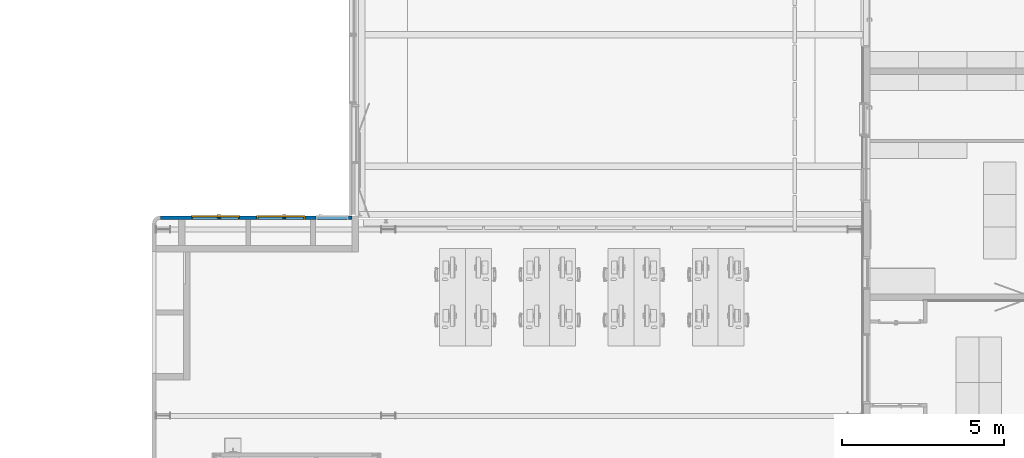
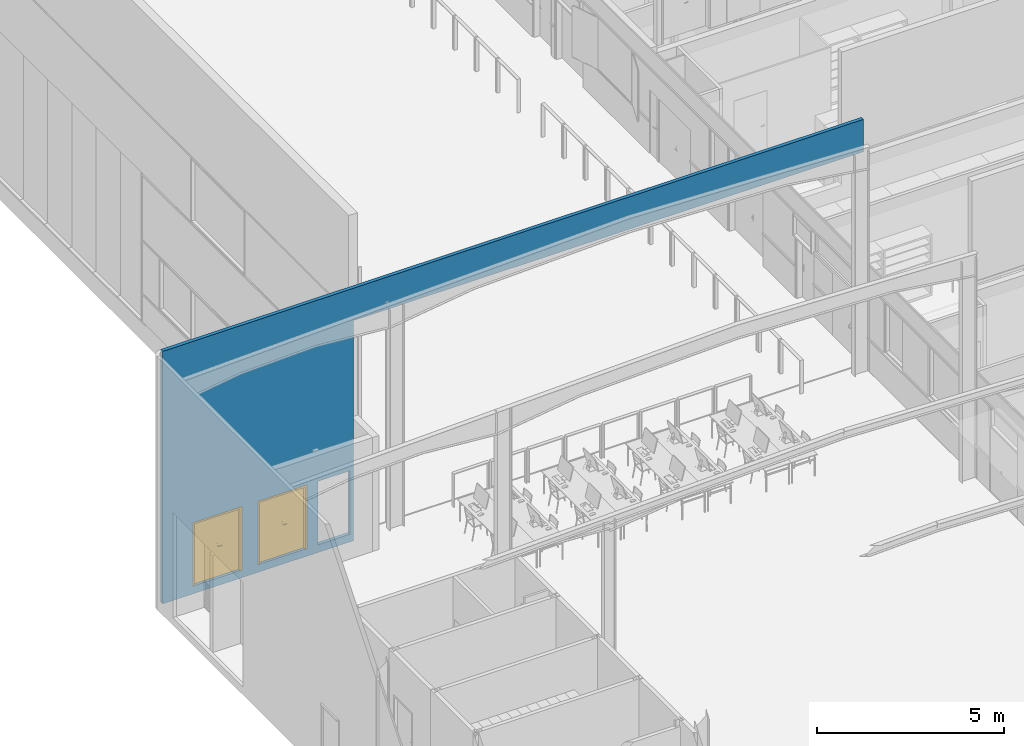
# One storey, part 72 of 137: 2 doors, 1 wall, 3 openings.
"""IFC2X3 building model written with IfcOpenShell, lengths in centimetres."""

import ifcopenshell
import ifcopenshell.guid

model = None  # the IFC model being written
_history = None  # IfcOwnerHistory: only IFC2X3 demands one
_inside = {}  # id of a spatial element -> (the spatial element, [elements in it])
_under = {}  # id of a project, library or spatial element -> (it, [spatial elements below it])
_declared = {}  # id of a project -> (the project, [libraries it declares])
_typed = {}  # id of a type object -> (the type object, [elements of that type])
_made_of = {}  # id of a material, layer set ... -> (it, [elements and type objects made of it])


def new_model(schema):
    """Start an empty IFC model of exactly this schema.

    Asked for "IFC4X3", IfcOpenShell would pick the latest addendum, in which some entities
    have other attributes; the version numbers below select the first issue.
    IFC2X3 requires an IfcOwnerHistory on every rooted entity: one is made here for all.
    """
    global model, _history
    if schema == "IFC4X3":
        model = ifcopenshell.file(schema_version=(4, 3, 0, 0))
    else:
        model = ifcopenshell.file(schema=schema)
    _inside.clear()
    _under.clear()
    _declared.clear()
    _typed.clear()
    _made_of.clear()
    _history = None
    if model.schema == "IFC2X3":
        org = make("IfcOrganization", Name="unknown")
        user = make(
            "IfcPersonAndOrganization",
            ThePerson=make("IfcPerson", FamilyName="unknown"),
            TheOrganization=org,
        )
        app = make(
            "IfcApplication",
            ApplicationDeveloper=org,
            Version="unknown",
            ApplicationFullName="unknown",
            ApplicationIdentifier="unknown",
        )
        _history = make(
            "IfcOwnerHistory",
            OwningUser=user,
            OwningApplication=app,
            ChangeAction="ADDED",
            CreationDate=0,
        )
    return model


def make(cls, **values):
    """One entity of the class cls with the attributes given. An attribute that is None is left unset."""
    return model.create_entity(
        cls, **{name: value for name, value in values.items() if value is not None}
    )


def entity(cls, *values):
    """Any entity or typed value of the class cls, its attributes in the order of the schema. None: left unset."""
    e = model.create_entity(cls)
    for i, value in enumerate(values):
        if value is not None:
            e[i] = value
    return e


def rooted(cls, **values):
    """An entity with a GlobalId (a new one), such as an element, a storey or a relation."""
    return make(cls, GlobalId=ifcopenshell.guid.new(), OwnerHistory=_history, **values)


def si_unit(unit_type, name, prefix=None):
    """IfcSIUnit, for example si_unit("LENGTHUNIT", "METRE", prefix="MILLI")."""
    return make("IfcSIUnit", UnitType=unit_type, Prefix=prefix, Name=name)


def converted_unit(unit_type, name, factor, base, dimensions=None, offset=None):
    """IfcConversionBasedUnit, such as the inch: factor (a typed value) times the base unit."""
    return make(
        "IfcConversionBasedUnit"
        if offset is None
        else "IfcConversionBasedUnitWithOffset",
        ConversionOffset=offset,
        Dimensions=None
        if dimensions is None
        else entity("IfcDimensionalExponents", *dimensions),
        UnitType=unit_type,
        Name=name,
        ConversionFactor=make(
            "IfcMeasureWithUnit", ValueComponent=factor, UnitComponent=base
        ),
    )


def derived_unit(unit_type, elements):
    """IfcDerivedUnit: a product of units, each with its exponent."""
    return make(
        "IfcDerivedUnit",
        Elements=[
            make("IfcDerivedUnitElement", Unit=unit, Exponent=power)
            for unit, power in elements
        ],
        UnitType=unit_type,
    )


def assignment(units):
    """IfcUnitAssignment: the units of a project."""
    return None if units is None else make("IfcUnitAssignment", Units=units)


def point(xyz):
    """IfcCartesianPoint."""
    return None if xyz is None else make("IfcCartesianPoint", Coordinates=xyz)


def direction(xyz):
    """IfcDirection."""
    return None if xyz is None else make("IfcDirection", DirectionRatios=xyz)


def frame(location, z_axis=None, x_axis=None):
    """IfcAxis2Placement3D, a coordinate frame: its origin and axes. An axis left out is left unset."""
    return make(
        "IfcAxis2Placement3D",
        Location=point(location),
        Axis=direction(z_axis),
        RefDirection=direction(x_axis),
    )


def frame_2d(location, x_axis=None):
    """IfcAxis2Placement2D, a coordinate frame in the plane: its origin and x axis."""
    return make(
        "IfcAxis2Placement2D", Location=point(location), RefDirection=direction(x_axis)
    )


def origin():
    """The frame at (0, 0, 0) with its axes left unset."""
    return frame((0.0, 0.0, 0.0))


def place(relative_to, where):
    """IfcLocalPlacement: puts the frame where relative to a parent placement (None: the world)."""
    return make(
        "IfcLocalPlacement", PlacementRelTo=relative_to, RelativePlacement=where
    )


def context(
    kind, dimensions, precision=None, world=None, true_north=None, identifier=None
):
    """IfcGeometricRepresentationContext, for example the 3D "Model" context."""
    return make(
        "IfcGeometricRepresentationContext",
        ContextIdentifier=identifier,
        ContextType=kind,
        CoordinateSpaceDimension=dimensions,
        Precision=precision,
        WorldCoordinateSystem=world,
        TrueNorth=true_north,
    )


def subcontext(parent, identifier, kind, view, scale=None):
    """IfcGeometricRepresentationSubContext, for example "Body" below "Model"."""
    return make(
        "IfcGeometricRepresentationSubContext",
        ContextIdentifier=identifier,
        ContextType=kind,
        ParentContext=parent,
        TargetScale=scale,
        TargetView=view,
    )


def project(units=None, contexts=None):
    """IfcProject with its units and contexts."""
    return rooted(
        "IfcProject",
        Name="project",
        RepresentationContexts=contexts,
        UnitsInContext=assignment(units),
    )


def spatial(cls, under=None, at=None, **own):
    """A site, building, storey or space (cls), placed at a placement, below another one or the project."""
    s = rooted(cls, ObjectPlacement=at, **own)
    if under is not None:
        _under.setdefault(under.id(), (under, []))[1].append(s)
    return s


def profile(cls, at=None, kind="AREA", **sizes):
    """A parametric profile (cls). Its sizes go by their IFC names, for example OverallWidth=200.0."""
    return make(cls, ProfileType=kind, Position=at, **sizes)


def rectangle(**sizes):
    """IfcRectangleProfileDef."""
    return profile("IfcRectangleProfileDef", **sizes)


def extrude(swept, where, along, depth):
    """IfcExtrudedAreaSolid: the profile swept, set in the frame where, extruded along a direction by depth."""
    return make(
        "IfcExtrudedAreaSolid",
        SweptArea=swept,
        Position=where,
        ExtrudedDirection=direction(along),
        Depth=depth,
    )


def faces_of(points, faces, orient=None, outer=None):
    """IfcFace entities. A face is a list of loops; a loop is a list of indices into points, from 0.

    orient and outer hold one flag for each loop. By default every Orientation is true, the
    first loop of a face is its IfcFaceOuterBound and the others are IfcFaceBound.
    """
    made = []
    for i, loops in enumerate(faces):
        bounds = []
        for j, loop in enumerate(loops):
            is_outer = j == 0 if outer is None else outer[i][j]
            bounds.append(
                make(
                    "IfcFaceOuterBound" if is_outer else "IfcFaceBound",
                    Bound=make("IfcPolyLoop", Polygon=[points[k] for k in loop]),
                    Orientation=True if orient is None else orient[i][j],
                )
            )
        made.append(make("IfcFace", Bounds=bounds))
    return made


def faceted_brep(points, faces, orient=None, outer=None, voids=None):
    """IfcFacetedBrep: a solid bounded by flat faces; with voids (closed shells), ...WithVoids."""
    shared = [point(p) for p in points]
    hull = make("IfcClosedShell", CfsFaces=faces_of(shared, faces, orient, outer))
    if voids is None:
        return make("IfcFacetedBrep", Outer=hull)
    return make(
        "IfcFacetedBrepWithVoids",
        Outer=hull,
        Voids=[
            make(cls, CfsFaces=faces_of(shared, fs, o, b)) for cls, fs, o, b in voids
        ],
    )


def shape(context_of_items, identifier, shape_type, items):
    """IfcShapeRepresentation: the items that make up one representation, for example the "Body"."""
    return make(
        "IfcShapeRepresentation",
        ContextOfItems=context_of_items,
        RepresentationIdentifier=identifier,
        RepresentationType=shape_type,
        Items=items,
    )


def source(mapping_origin, context_of_items, identifier, shape_type, items):
    """IfcRepresentationMap: a shape defined once, which mapped items show again and again."""
    return make(
        "IfcRepresentationMap",
        MappingOrigin=mapping_origin,
        MappedRepresentation=shape(context_of_items, identifier, shape_type, items),
    )


def transform(
    local_origin,
    x_axis=None,
    y_axis=None,
    z_axis=None,
    scale=None,
    scale2=None,
    scale3=None,
    uniform=True,
):
    """IfcCartesianTransformationOperator3D, or its non-uniform kind. x_axis, y_axis, z_axis: its Axis1, 2, 3."""
    if uniform:
        return make(
            "IfcCartesianTransformationOperator3D",
            Axis1=direction(x_axis),
            Axis2=direction(y_axis),
            LocalOrigin=point(local_origin),
            Scale=scale,
            Axis3=direction(z_axis),
        )
    return make(
        "IfcCartesianTransformationOperator3DnonUniform",
        Axis1=direction(x_axis),
        Axis2=direction(y_axis),
        LocalOrigin=point(local_origin),
        Scale=scale,
        Axis3=direction(z_axis),
        Scale2=scale2,
        Scale3=scale3,
    )


def mapped(mapping_source, mapping_target):
    """IfcMappedItem: shows the shape of a source again, moved by a transform."""
    return make(
        "IfcMappedItem", MappingSource=mapping_source, MappingTarget=mapping_target
    )


def material(Name=None, Category=None):
    """IfcMaterial."""
    return make("IfcMaterial", Name=Name, Category=Category)


def material_list(materials):
    """IfcMaterialList."""
    return make("IfcMaterialList", Materials=materials)


def made_of(thing, what):
    """Note that an element or type object is made of a material, layer set ...; save() writes the relation."""
    if what is not None:
        _made_of.setdefault(what.id(), (what, []))[1].append(thing)
    return thing


def type_object(cls, material=None, **own):
    """A type object (cls), such as IfcWallType, which elements share."""
    return made_of(rooted(cls, **own), material)


def type_shapes(of_type, sources):
    """Give a type object the sources (RepresentationMaps) that its elements show as mapped items."""
    of_type.RepresentationMaps = sources


def element(
    cls,
    number,
    at=None,
    inside=None,
    cuts=None,
    type_object=None,
    material=None,
    context=None,
    identifier="Body",
    shape_type=None,
    held_by="IfcProductDefinitionShape",
    body=None,
    shapes=None,
    **own,
):
    """One element of the class cls, such as IfcWall. Its Tag is "e" and its number.

    at: its placement. inside: the storey or other place that contains it. cuts: it is an
    opening in that element (IfcRelVoidsElement). A single representation is given by context,
    identifier, shape_type and body (its items); several are given by shapes. held_by: the class
    of the entity that holds the representations. save() writes the other relations.
    """
    e = rooted(cls, Tag="e%d" % number, ObjectPlacement=at, **own)
    if body is not None:
        shapes = [shape(context, identifier, shape_type, body)]
    if shapes is not None:
        e.Representation = make(held_by, Representations=shapes)
    if inside is not None:
        _inside.setdefault(inside.id(), (inside, []))[1].append(e)
    if cuts is not None:
        rooted(
            "IfcRelVoidsElement", RelatingBuildingElement=cuts, RelatedOpeningElement=e
        )
    if type_object is not None:
        _typed.setdefault(type_object.id(), (type_object, []))[1].append(e)
    return made_of(e, material)


def fill(opening, filler):
    """IfcRelFillsElement: the door or window that sits in an opening."""
    return rooted(
        "IfcRelFillsElement",
        RelatingOpeningElement=opening,
        RelatedBuildingElement=filler,
    )


def aggregate(whole, parts):
    """IfcRelAggregates: a whole, such as a stair, and the parts it consists of."""
    return rooted("IfcRelAggregates", RelatingObject=whole, RelatedObjects=parts)


def save(model, path):
    """Write the relations noted so far, then the file.

    IfcRelAggregates (storeys below a building ...), IfcRelContainedInSpatialStructure (elements
    in a storey), IfcRelDefinesByType, IfcRelAssociatesMaterial and IfcRelDeclares: one each for
    every whole, place, type object, material and project.
    """
    for whole, parts in _under.values():
        aggregate(whole, parts)
    for where, things in _inside.values():
        rooted(
            "IfcRelContainedInSpatialStructure",
            RelatedElements=things,
            RelatingStructure=where,
        )
    for kind, things in _typed.values():
        rooted("IfcRelDefinesByType", RelatedObjects=things, RelatingType=kind)
    for what, things in _made_of.values():
        rooted("IfcRelAssociatesMaterial", RelatedObjects=things, RelatingMaterial=what)
    for by, libraries in _declared.values():
        rooted("IfcRelDeclares", RelatingContext=by, RelatedDefinitions=libraries)
    model.write(path)


model = new_model("IFC2X3")

# Units and contexts
model_context = context("Model", 3, precision=0.001, world=origin(), true_north=direction((6.12303176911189e-17, 1.0)))
body_context = subcontext(model_context, "Body", "Model", "MODEL_VIEW")
ifc_project = project(units=[si_unit("LENGTHUNIT", "METRE", prefix="CENTI"), si_unit("AREAUNIT", "SQUARE_METRE"), si_unit("VOLUMEUNIT", "CUBIC_METRE"), converted_unit("PLANEANGLEUNIT", "DEGREE", entity("IfcRatioMeasure", 0.0174532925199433), si_unit("PLANEANGLEUNIT", "RADIAN"), dimensions=[0, 0, 0, 0, 0, 0, 0]), si_unit("MASSUNIT", "GRAM", prefix="KILO"), si_unit("TIMEUNIT", "SECOND"), si_unit("FREQUENCYUNIT", "HERTZ"), si_unit("THERMODYNAMICTEMPERATUREUNIT", "DEGREE_CELSIUS"), derived_unit("THERMALTRANSMITTANCEUNIT", [(si_unit("MASSUNIT", "GRAM", prefix="KILO"), 1), (si_unit("THERMODYNAMICTEMPERATUREUNIT", "KELVIN"), -1), (si_unit("TIMEUNIT", "SECOND"), -3)]), derived_unit("VOLUMETRICFLOWRATEUNIT", [(si_unit("LENGTHUNIT", "METRE"), 3), (si_unit("TIMEUNIT", "SECOND"), -1)]), si_unit("ELECTRICCURRENTUNIT", "AMPERE"), si_unit("ELECTRICVOLTAGEUNIT", "VOLT"), si_unit("POWERUNIT", "WATT"), si_unit("FORCEUNIT", "NEWTON", prefix="KILO"), si_unit("ILLUMINANCEUNIT", "LUX"), si_unit("LUMINOUSFLUXUNIT", "LUMEN"), si_unit("LUMINOUSINTENSITYUNIT", "CANDELA"), derived_unit("USERDEFINED", [(si_unit("MASSUNIT", "GRAM", prefix="KILO"), -1), (si_unit("LENGTHUNIT", "METRE"), -2), (si_unit("TIMEUNIT", "SECOND"), 3), (si_unit("LUMINOUSFLUXUNIT", "LUMEN"), 1)]), derived_unit("LINEARVELOCITYUNIT", [(si_unit("LENGTHUNIT", "METRE"), 1), (si_unit("TIMEUNIT", "SECOND"), -1)]), si_unit("PRESSUREUNIT", "PASCAL"), derived_unit("USERDEFINED", [(si_unit("LENGTHUNIT", "METRE"), -2), (si_unit("MASSUNIT", "GRAM", prefix="KILO"), 1), (si_unit("TIMEUNIT", "SECOND"), -2)])], contexts=[model_context])

# Site, building, storey
site_placement = place(None, frame((8.62739174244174, -249.285249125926, 0.0)))
site = spatial("IfcSite", under=ifc_project, at=site_placement, Name="Default", CompositionType="ELEMENT")
building_placement = place(site_placement, origin())
building = spatial("IfcBuilding", under=site, at=building_placement, CompositionType="ELEMENT")
storey_placement = place(building_placement, origin())
storey = spatial("IfcBuildingStorey", under=building, at=storey_placement, Name="RDC", CompositionType="ELEMENT", Elevation=-8.82465566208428e-11)

# Wall, openings, doors
ifc_material_1 = material(Name="Tôle/Doublage")
ifc_material_2 = material(Name="Laine minérale")
ifc_material_list_1 = material_list([ifc_material_1, ifc_material_2, ifc_material_1])
wall_type = type_object("IfcWallType", Name="Mur de base:MET 4 + ISO 6 + MET 1", PredefinedType="NOTDEFINED")
wall_placement = place(storey_placement, frame((865.72426816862, 3548.48060251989, -25.0)))
wall = element("IfcWall", 1, at=wall_placement, inside=storey, type_object=wall_type, material=ifc_material_list_1, Name="Mur de base:MET 4 + ISO 6 + MET 1", ObjectType="Mur de base:MET 4 + ISO 6 + MET 1", context=body_context, shape_type="Brep", body=[
    faceted_brep([(0.0, -5.50000000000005, 0.0), (591.180559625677, -5.50000000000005, 0.0), (591.180559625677, -5.50000000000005, 720.0), (2168.18055964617, -5.50000000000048, 720.0), (2168.18055964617, -5.50000000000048, 826.0), (0.0, -5.50000000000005, 826.0), (243.680559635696, -5.50000000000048, 25.0), (94.6805596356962, -5.50000000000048, 25.0), (94.6805596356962, -5.50000000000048, 232.0), (243.680559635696, -5.50000000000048, 232.0), (445.180559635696, -5.50000000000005, 25.0), (296.180559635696, -5.50000000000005, 25.0), (296.180559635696, -5.50000000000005, 232.0), (445.180559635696, -5.50000000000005, 232.0), (580.180559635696, -5.50000000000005, 25.0), (480.180559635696, -5.50000000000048, 25.0), (480.180559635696, -5.50000000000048, 232.499999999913), (580.180559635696, -5.50000000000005, 232.499999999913), (0.180171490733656, 5.50000000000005, 0.0), (0.180171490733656, 5.50000000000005, 826.0), (2168.1805596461, 5.49999999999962, 826.0), (2168.1805596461, 5.49999999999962, 720.0), (591.180559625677, 5.50000000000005, 720.0), (591.180559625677, 5.50000000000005, 0.0), (243.680559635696, 5.49999999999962, 25.0), (243.680559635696, 5.49999999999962, 232.0), (94.6805596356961, 5.49999999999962, 232.0), (94.6805596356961, 5.49999999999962, 25.0), (445.180559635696, 5.50000000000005, 25.0), (445.180559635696, 5.50000000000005, 232.0), (296.180559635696, 5.50000000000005, 232.0), (296.180559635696, 5.50000000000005, 25.0), (580.180559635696, 5.50000000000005, 25.0), (580.180559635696, 5.50000000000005, 232.499999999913), (480.180559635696, 5.49999999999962, 232.499999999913), (480.180559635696, 5.49999999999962, 25.0)], [[[0, 1, 2, 3, 4, 5], [6, 7, 8, 9], [10, 11, 12, 13], [14, 15, 16, 17]], [[18, 19, 20, 21, 22, 23], [24, 25, 26, 27], [28, 29, 30, 31], [32, 33, 34, 35]], [[1, 0, 18, 23]], [[2, 1, 23, 22]], [[5, 4, 20, 19]], [[3, 2, 22, 21]], [[4, 3, 21, 20]], [[0, 5, 19, 18]], [[25, 24, 6, 9]], [[26, 25, 9, 8]], [[27, 26, 8, 7]], [[24, 27, 7, 6]], [[29, 28, 10, 13]], [[30, 29, 13, 12]], [[31, 30, 12, 11]], [[28, 31, 11, 10]], [[33, 32, 14, 17]], [[34, 33, 17, 16]], [[35, 34, 16, 15]], [[32, 35, 15, 14]]]),
])
opening_1_placement = place(wall_placement, frame((94.6805596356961, -5.50000000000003, 25.0)))
opening_1 = element("IfcOpeningElement", 2, at=opening_1_placement, cuts=wall, Name="Double(R)_bois_Existant_mu:143 x 204 cm:1", ObjectType="Opening", context=body_context, shape_type="SweptSolid", body=[
    extrude(rectangle(XDim=206.999999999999, YDim=149.0, at=frame_2d((103.499999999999, 74.4999999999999), x_axis=(1.0, 0.0))), frame((0.0, 0.0, 0.0), z_axis=(0.0, 1.0, 0.0), x_axis=(0.0, 0.0, 1.0)), (0.0, 0.0, 1.0), 11.0),
])
opening_2_placement = place(wall_placement, frame((296.180559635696, -5.50000000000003, 25.0)))
opening_2 = element("IfcOpeningElement", 3, at=opening_2_placement, cuts=wall, Name="Double(R)_bois_Existant_mu:143 x 204 cm:1", ObjectType="Opening", context=body_context, shape_type="SweptSolid", body=[
    extrude(rectangle(XDim=206.999999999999, YDim=149.0, at=frame_2d((103.499999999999, 74.4999999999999), x_axis=(1.0, 0.0))), frame((0.0, 0.0, 0.0), z_axis=(0.0, 1.0, 0.0), x_axis=(0.0, 0.0, 1.0)), (0.0, 0.0, 1.0), 11.0),
])
opening_3_placement = place(wall_placement, frame((480.180559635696, -5.49999999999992, 25.0)))
element("IfcOpeningElement", 4, at=opening_3_placement, cuts=wall, Name="Simple(R)_bois_mu:93 x 204 cm:1", ObjectType="Opening", context=body_context, shape_type="SweptSolid", body=[
    extrude(rectangle(XDim=207.499999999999, YDim=99.9999999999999, at=frame_2d((103.749999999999, 50.0), x_axis=(1.0, 0.0))), frame((0.0, 0.0, 0.0), z_axis=(0.0, 1.0, 0.0), x_axis=(0.0, 0.0, 1.0)), (0.0, 0.0, 1.0), 11.0),
])
ifc_material_3 = material(Name="Porte - Poignée")
ifc_material_4 = material(Name="Porte - Cadre")
ifc_material_5 = material(Name="Porte - Panneau")
ifc_material_list_2 = material_list([ifc_material_3, ifc_material_4, ifc_material_5])
ifc_material_list_3 = material_list([ifc_material_3, ifc_material_4, ifc_material_5])
door_style = type_object("IfcDoorStyle", Name="143 x 204 cm", ConstructionType="NOTDEFINED", OperationType="DOUBLE_DOOR_SINGLE_SWING", ParameterTakesPrecedence=False, Sizeable=False, material=ifc_material_list_3)
shared_shape = source(origin(), body_context, "Body", "Brep", [
    faceted_brep([(69.2025298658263, 3.69999999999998, 100.778044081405), (68.7974701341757, 3.69999999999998, 100.778044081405), (68.3999999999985, 3.69999999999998, 100.699999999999), (68.4000000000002, 3.69999999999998, 99.3000000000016), (68.7974701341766, 3.69999999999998, 99.2219559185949), (69.2025298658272, 3.69999999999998, 99.2219559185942), (69.6000000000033, 3.69999999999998, 99.2999999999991), (69.600000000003, 3.69999999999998, 100.699999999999), (68.3999999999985, 5.94852045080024, 100.699999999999), (68.3999999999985, 5.94852045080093, 99.3000000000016), (68.7974701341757, 6.1131579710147, 100.778044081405), (69.2025298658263, 6.2809392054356, 100.778044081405), (67.583890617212, 7.89957845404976, 100.778044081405), (67.4161093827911, 7.49451872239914, 100.778044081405), (59.0793122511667, 7.49451872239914, 100.778044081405), (58.9115310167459, 7.89957845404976, 100.778044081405), (58.145104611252, 7.13315204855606, 100.778044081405), (58.4315250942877, 6.84673156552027, 100.778044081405), (69.6000000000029, 6.44557672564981, 100.699999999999), (69.6000000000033, 6.44557672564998, 99.2999999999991), (69.2025298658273, 6.28093920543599, 99.2219559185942), (68.7974701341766, 6.11315797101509, 99.2219559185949), (67.4161093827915, 7.49451872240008, 99.2219559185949), (67.5838906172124, 7.8995784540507, 99.2219559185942), (58.9115310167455, 7.8995784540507, 99.2219559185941), (59.0793122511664, 7.49451872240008, 99.2219559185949), (58.4315250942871, 6.84673156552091, 99.2219559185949), (58.1451046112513, 7.13315204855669, 99.2219559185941), (67.2514718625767, 7.09704858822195, 100.699999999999), (67.2514718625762, 7.09704858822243, 99.3000000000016), (67.7485281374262, 8.29704858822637, 100.699999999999), (67.7485281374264, 8.29704858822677, 99.2999999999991), (63.2477108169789, 7.09704858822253, 100.699999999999), (59.2439497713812, 7.09704858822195, 100.699999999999), (59.2439497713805, 7.09704858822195, 99.3000000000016), (63.2477108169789, 7.09704858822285, 99.3000000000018), (63.2477108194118, 7.71249275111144, 100.787811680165), (62.7399422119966, 8.29704858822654, 100.699999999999), (58.7468934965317, 8.29704858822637, 100.699999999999), (63.7554791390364, 8.29704858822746, 99.2999999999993), (58.7468934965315, 8.29704858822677, 99.2999999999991), (63.247710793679, 7.71249274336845, 99.2121883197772), (57.8640507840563, 7.41420587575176, 100.699999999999), (57.8640507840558, 7.41420587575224, 99.2999999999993), (58.7125789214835, 6.5656777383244, 99.3000000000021), (58.7125789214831, 6.56567773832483, 100.699999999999)], [[[0, 1, 2, 3, 4, 5, 6, 7]], [[8, 9, 3, 2]], [[1, 10, 8, 2]], [[1, 0, 11, 12, 13, 10]], [[14, 15, 16, 17]], [[7, 18, 11, 0]], [[18, 7, 6, 19]], [[6, 5, 20, 19]], [[5, 4, 21, 22, 23, 20]], [[24, 25, 26, 27]], [[4, 3, 9, 21]], [[28, 29, 9, 8]], [[8, 10, 13, 28]], [[18, 30, 12, 11]], [[31, 30, 18, 19]], [[19, 20, 23, 31]], [[21, 9, 29, 22]], [[29, 28, 32, 33, 34, 35]], [[36, 32, 13]], [[37, 38, 15]], [[37, 12, 30]], [[36, 12, 37]], [[14, 32, 36]], [[36, 15, 14]], [[28, 13, 32]], [[32, 14, 33]], [[12, 36, 13]], [[15, 36, 37]], [[30, 31, 39, 40, 38, 37]], [[23, 41, 39]], [[24, 39, 41]], [[39, 31, 23]], [[39, 24, 40]], [[22, 35, 41]], [[41, 23, 22]], [[41, 35, 25]], [[35, 22, 29]], [[34, 25, 35]], [[24, 41, 25]], [[17, 16, 42, 43, 27, 26, 44, 45]], [[45, 44, 34, 33]], [[33, 14, 17, 45]], [[15, 38, 42, 16]], [[43, 42, 38, 40]], [[24, 27, 43, 40]], [[34, 44, 26, 25]]]),
    faceted_brep([(68.7974701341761, -1.30000000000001, 100.778044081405), (69.2025298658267, -1.30000000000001, 100.778044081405), (69.6000000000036, -1.30000000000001, 100.699999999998), (69.6000000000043, -1.30000000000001, 99.2999999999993), (69.2025298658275, -1.30000000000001, 99.2219559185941), (68.7974701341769, -1.30000000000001, 99.2219559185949), (68.3999999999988, -1.30000000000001, 99.3000000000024), (68.3999999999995, -1.30000000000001, 100.699999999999), (69.2025298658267, -3.90045754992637, 100.778044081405), (69.6000000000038, -4.06509507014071, 100.699999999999), (68.7974701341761, -3.73267631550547, 100.778044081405), (67.4298602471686, -5.10028620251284, 100.778044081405), (67.5976414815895, -5.50534593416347, 100.778044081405), (58.9142453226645, -5.50534593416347, 100.778044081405), (59.0820265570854, -5.10028620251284, 100.778044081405), (58.4342394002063, -4.4524990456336, 100.778044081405), (58.1478189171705, -4.73891952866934, 100.778044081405), (68.3999999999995, -3.56803879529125, 100.699999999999), (68.3999999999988, -3.56803879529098, 99.3000000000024), (68.7974701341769, -3.7326763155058, 99.2219559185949), (69.2025298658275, -3.9004575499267, 99.2219559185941), (67.5976414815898, -5.50534593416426, 99.2219559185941), (67.4298602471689, -5.10028620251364, 99.2219559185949), (59.0820265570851, -5.10028620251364, 99.2219559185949), (58.9142453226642, -5.50534593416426, 99.2219559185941), (58.1478189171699, -4.73891952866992, 99.2219559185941), (58.4342394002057, -4.45249904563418, 99.2219559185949), (69.6000000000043, -4.06509507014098, 99.2999999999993), (67.7622790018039, -5.90281606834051, 100.699999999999), (67.2652227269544, -4.70281606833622, 100.699999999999), (67.2652227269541, -4.70281606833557, 99.3000000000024), (67.7622790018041, -5.90281606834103, 99.2999999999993), (63.255943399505, -5.31828027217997, 100.787811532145), (63.7692302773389, -5.90281606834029, 100.699999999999), (58.7496078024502, -5.90281606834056, 100.699999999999), (63.2559434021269, -4.70281606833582, 100.699999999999), (59.2466640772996, -4.70281606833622, 100.699999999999), (63.2559436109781, -4.70281606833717, 99.3000000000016), (59.2466640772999, -4.70281606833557, 99.3000000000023), (63.2559434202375, -5.31828027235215, 99.2121884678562), (62.7426572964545, -5.90281606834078, 99.2999999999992), (58.7496078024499, -5.90281606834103, 99.2999999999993), (58.715293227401, -4.17144521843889, 99.3000000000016), (57.8667650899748, -5.01997335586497, 99.2999999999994), (57.8667650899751, -5.01997335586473, 100.699999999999), (58.7152932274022, -4.17144521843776, 100.699999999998)], [[[0, 1, 2, 3, 4, 5, 6, 7]], [[2, 1, 8, 9]], [[1, 0, 10, 11, 12, 8]], [[13, 14, 15, 16]], [[0, 7, 17, 10]], [[18, 17, 7, 6]], [[5, 19, 18, 6]], [[5, 4, 20, 21, 22, 19]], [[23, 24, 25, 26]], [[3, 27, 20, 4]], [[9, 27, 3, 2]], [[9, 8, 12, 28]], [[10, 17, 29, 11]], [[30, 29, 17, 18]], [[18, 19, 22, 30]], [[20, 27, 31, 21]], [[28, 31, 27, 9]], [[12, 32, 33]], [[13, 33, 32]], [[33, 28, 12]], [[33, 13, 34]], [[11, 35, 32]], [[32, 12, 11]], [[32, 35, 14]], [[35, 11, 29]], [[36, 14, 35]], [[13, 32, 14]], [[29, 30, 37, 38, 36, 35]], [[39, 37, 22]], [[40, 41, 24]], [[40, 21, 31]], [[39, 21, 40]], [[23, 37, 39]], [[39, 24, 23]], [[30, 22, 37]], [[37, 23, 38]], [[21, 39, 22]], [[24, 39, 40]], [[31, 28, 33, 34, 41, 40]], [[42, 26, 25, 43, 44, 16, 15, 45]], [[13, 16, 44, 34]], [[36, 45, 15, 14]], [[42, 45, 36, 38]], [[38, 23, 26, 42]], [[24, 41, 43, 25]], [[44, 43, 41, 34]]]),
    faceted_brep([(69.0, 3.19999999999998, 86.4641016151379), (70.0352761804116, 3.19999999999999, 86.6003983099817), (71.0, 3.19999999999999, 87.0), (71.0, 3.19999999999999, 108.0), (70.0352761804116, 3.19999999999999, 108.399601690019), (69.0, 3.19999999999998, 108.535898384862), (67.9647238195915, 3.19999999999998, 108.399601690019), (67.0, 3.19999999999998, 108.0), (67.0, 3.19999999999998, 87.0), (67.9647238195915, 3.19999999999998, 86.6003983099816), (69.0, 3.69999999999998, 108.535898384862), (70.0352761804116, 3.69999999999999, 108.399601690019), (71.0, 3.69999999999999, 108.0), (71.0, 3.69999999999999, 87.0), (70.0352761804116, 3.69999999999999, 86.6003983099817), (69.0, 3.69999999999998, 86.4641016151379), (67.9647238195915, 3.69999999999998, 86.6003983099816), (67.0, 3.69999999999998, 87.0), (67.0, 3.69999999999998, 108.0), (67.9647238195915, 3.69999999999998, 108.399601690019)], [[[0, 1, 2, 3, 4, 5, 6, 7, 8, 9]], [[10, 11, 12, 13, 14, 15, 16, 17, 18, 19]], [[6, 19, 18, 7]], [[5, 10, 19, 6]], [[4, 11, 10, 5]], [[4, 3, 12, 11]], [[12, 3, 2, 13]], [[1, 14, 13, 2]], [[0, 15, 14, 1]], [[9, 16, 15, 0]], [[9, 8, 17, 16]], [[17, 8, 7, 18]]]),
    faceted_brep([(69.0, -1.30000000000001, 86.4641016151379), (70.0352761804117, -1.30000000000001, 86.6003983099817), (71.0, -1.30000000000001, 87.0), (71.0, -1.30000000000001, 108.0), (70.0352761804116, -1.30000000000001, 108.399601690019), (69.0, -1.30000000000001, 108.535898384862), (67.9647238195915, -1.30000000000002, 108.399601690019), (67.0, -1.30000000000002, 108.0), (67.0, -1.30000000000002, 87.0), (67.9647238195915, -1.30000000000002, 86.6003983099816), (71.0, -0.800000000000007, 108.0), (71.0, -0.800000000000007, 87.0), (70.0352761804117, -0.80000000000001, 86.6003983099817), (69.0, -0.800000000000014, 86.4641016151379), (67.9647238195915, -0.800000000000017, 86.6003983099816), (67.0, -0.800000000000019, 87.0), (67.0, -0.800000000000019, 108.0), (67.9647238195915, -0.800000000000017, 108.399601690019), (69.0, -0.800000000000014, 108.535898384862), (70.0352761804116, -0.80000000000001, 108.399601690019)], [[[0, 1, 2, 3, 4, 5, 6, 7, 8, 9]], [[10, 11, 12, 13, 14, 15, 16, 17, 18, 19]], [[1, 12, 11, 2]], [[0, 13, 12, 1]], [[9, 14, 13, 0]], [[9, 8, 15, 14]], [[15, 8, 7, 16]], [[6, 17, 16, 7]], [[5, 18, 17, 6]], [[4, 19, 18, 5]], [[4, 3, 10, 19]], [[10, 3, 2, 11]]]),
    faceted_brep([(149.0, 0.0, 0.0), (150.0, 0.0, 0.0), (150.0, -0.799999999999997, 0.0), (146.0, -0.799999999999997, 0.0), (146.0, 3.2, 0.0), (145.0, 3.2, 0.0), (145.0, 11.8000000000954, 0.0), (150.0, 11.8000000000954, 0.0), (150.0, 11.0, 0.0), (149.0, 11.0, 0.0), (149.0, 11.0, 207.0), (149.0, 0.0, 207.0), (150.0, 11.0, 208.0), (-1.0, 11.0, 208.0), (-1.0, 11.0, 0.0), (0.0, 11.0, 0.0), (0.0, 11.0, 207.0), (150.0, 11.8000000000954, 208.0), (145.0, 11.8000000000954, 203.0), (4.0, 11.8000000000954, 203.0), (4.0, 11.8000000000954, 0.0), (-1.0, 11.8000000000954, 0.0), (-1.0, 11.8000000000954, 208.0), (145.0, 3.2, 203.0), (146.0, 3.2, 204.0), (3.0, 3.2, 204.0), (3.0, 3.2, 0.0), (4.0, 3.2, 0.0), (4.0, 3.2, 203.0), (146.0, -0.799999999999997, 204.0), (150.0, -0.799999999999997, 208.0), (-1.0, -0.799999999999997, 208.0), (-1.0, -0.799999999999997, 0.0), (3.0, -0.799999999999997, 0.0), (3.0, -0.799999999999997, 204.0), (150.0, 0.0, 208.0), (0.0, 0.0, 207.0), (0.0, 0.0, 0.0), (-1.0, 0.0, 0.0), (-1.0, 0.0, 208.0)], [[[0, 1, 2, 3, 4, 5, 6, 7, 8, 9]], [[9, 10, 11, 0]], [[8, 12, 13, 14, 15, 16, 10, 9]], [[7, 17, 12, 8]], [[6, 18, 19, 20, 21, 22, 17, 7]], [[5, 23, 18, 6]], [[4, 24, 25, 26, 27, 28, 23, 5]], [[3, 29, 24, 4]], [[2, 30, 31, 32, 33, 34, 29, 3]], [[1, 35, 30, 2]], [[0, 11, 36, 37, 38, 39, 35, 1]], [[16, 15, 37, 36]], [[37, 15, 14, 21, 20, 27, 26, 33, 32, 38]], [[22, 21, 14, 13]], [[28, 27, 20, 19]], [[34, 33, 26, 25]], [[39, 38, 32, 31]], [[10, 16, 36, 11]], [[17, 22, 13, 12]], [[23, 28, 19, 18]], [[29, 34, 25, 24]], [[35, 39, 31, 30]]]),
    faceted_brep([(3.0, -0.799999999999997, 0.0), (74.5000000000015, -0.799999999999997, 0.0), (74.5000000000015, -0.799999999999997, 204.0), (3.0, -0.799999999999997, 204.0), (3.0, 3.2, 0.0), (3.0, 3.2, 204.0), (74.5000000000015, 3.2, 204.0), (74.5000000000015, 3.2, 0.0)], [[[0, 1, 2, 3]], [[4, 5, 6, 7]], [[3, 5, 4, 0]], [[2, 6, 5, 3]], [[1, 7, 6, 2]], [[0, 4, 7, 1]]]),
    faceted_brep([(146.0, -0.799999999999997, 204.0), (74.5000000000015, -0.799999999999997, 204.0), (74.5000000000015, -0.799999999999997, 0.0), (146.0, -0.799999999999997, 0.0), (146.0, 3.2, 204.0), (146.0, 3.2, 0.0), (74.5000000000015, 3.2, 0.0), (74.5000000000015, 3.2, 204.0)], [[[0, 1, 2, 3]], [[4, 5, 6, 7]], [[3, 5, 4, 0]], [[2, 6, 5, 3]], [[1, 7, 6, 2]], [[0, 4, 7, 1]]]),
])
type_shapes(door_style, [shared_shape])
door_1_placement = place(opening_1_placement, frame((149.0, 11.0, 0.0), z_axis=(0.0, 0.0, 1.0), x_axis=(-1.0, 0.0, 0.0)))
door_1 = element("IfcDoor", 5, at=door_1_placement, inside=storey, type_object=door_style, material=ifc_material_list_2, Name="Double(R)_bois_Existant_mu:143 x 204 cm", ObjectType="143 x 204 cm", OverallHeight=206.999999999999, OverallWidth=149.0, context=body_context, shape_type="MappedRepresentation", body=[
    mapped(shared_shape, transform((0.0, 0.0, 0.0), scale=1.0)),
])
fill(opening_1, door_1)
ifc_material_list_4 = material_list([ifc_material_3, ifc_material_4, ifc_material_5])
door_2_placement = place(opening_2_placement, frame((149.0, 11.0, 0.0), z_axis=(0.0, 0.0, 1.0), x_axis=(-1.0, 0.0, 0.0)))
door_2 = element("IfcDoor", 6, at=door_2_placement, inside=storey, type_object=door_style, material=ifc_material_list_4, Name="Double(R)_bois_Existant_mu:143 x 204 cm", ObjectType="143 x 204 cm", OverallHeight=206.999999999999, OverallWidth=149.0, context=body_context, shape_type="MappedRepresentation", body=[
    mapped(shared_shape, transform((0.0, 0.0, 0.0), scale=1.0)),
])
fill(opening_2, door_2)

save(model, "model.ifc")
